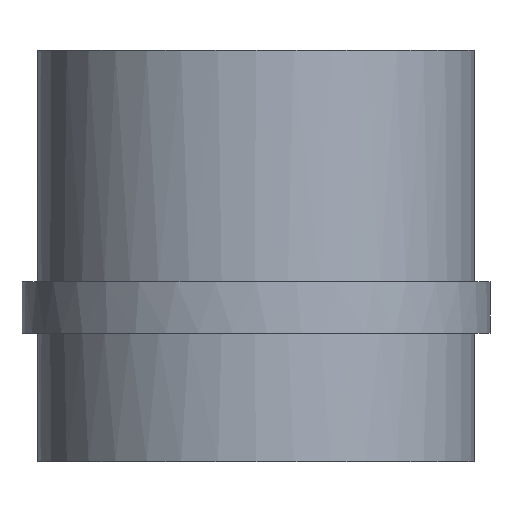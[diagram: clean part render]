
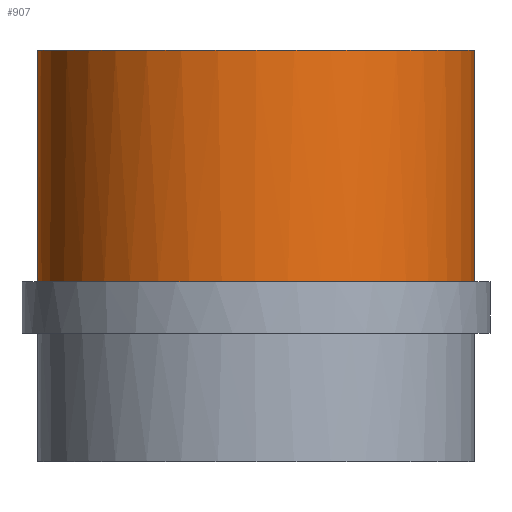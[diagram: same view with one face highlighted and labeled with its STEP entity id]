
A CAD part, front view. The second image highlights one B-rep face of the part: STEP entity #907.
In plain terms, the highlighted cylindrical face has radius 42.5 mm (diameter 85 mm), a partial arc.
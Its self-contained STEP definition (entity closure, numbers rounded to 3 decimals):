
#775=CARTESIAN_POINT('Vertex',(42.5,0.,10.)) ;
#777=CARTESIAN_POINT('Vertex',(-42.5,0.,10.)) ;
#781=CARTESIAN_POINT('Control Point',(42.5,0.,10.)) ;
#782=CARTESIAN_POINT('Control Point',(42.5,-4.152,10.)) ;
#783=CARTESIAN_POINT('Control Point',(41.993,-8.304,10.)) ;
#784=CARTESIAN_POINT('Control Point',(40.979,-12.373,10.)) ;
#785=CARTESIAN_POINT('Control Point',(37.978,-20.182,10.)) ;
#786=CARTESIAN_POINT('Control Point',(33.186,-27.038,10.)) ;
#787=CARTESIAN_POINT('Control Point',(30.381,-30.156,10.)) ;
#788=CARTESIAN_POINT('Control Point',(24.066,-35.643,10.)) ;
#789=CARTESIAN_POINT('Control Point',(16.617,-39.449,10.)) ;
#790=CARTESIAN_POINT('Control Point',(12.677,-40.886,10.)) ;
#791=CARTESIAN_POINT('Control Point',(4.526,-42.768,10.)) ;
#792=CARTESIAN_POINT('Control Point',(-3.838,-42.634,10.)) ;
#793=CARTESIAN_POINT('Control Point',(-7.992,-42.053,10.)) ;
#794=CARTESIAN_POINT('Control Point',(-16.073,-39.891,10.)) ;
#795=CARTESIAN_POINT('Control Point',(-23.396,-35.847,10.)) ;
#796=CARTESIAN_POINT('Control Point',(-26.791,-33.385,10.)) ;
#797=CARTESIAN_POINT('Control Point',(-32.912,-27.683,10.)) ;
#798=CARTESIAN_POINT('Control Point',(-37.481,-20.676,10.)) ;
#799=CARTESIAN_POINT('Control Point',(-39.325,-16.909,10.)) ;
#800=CARTESIAN_POINT('Control Point',(-41.279,-11.248,10.)) ;
#801=CARTESIAN_POINT('Control Point',(-42.217,-5.37,10.)) ;
#802=CARTESIAN_POINT('Control Point',(-42.406,-3.585,10.)) ;
#803=CARTESIAN_POINT('Control Point',(-42.5,-1.792,10.)) ;
#804=CARTESIAN_POINT('Control Point',(-42.5,0.,10.)) ;
#865=CARTESIAN_POINT('Line Origine',(-42.5,0.,-29.)) ;
#869=CARTESIAN_POINT('Vertex',(-42.5,0.,55.)) ;
#876=CARTESIAN_POINT('Vertex',(42.5,0.,55.)) ;
#879=CARTESIAN_POINT('Line Origine',(42.5,0.,-29.)) ;
#891=CARTESIAN_POINT('Axis2P3D Location',(0.,0.,-29.)) ;
#896=CARTESIAN_POINT('Axis2P3D Location',(0.,0.,55.)) ;
#866=DIRECTION('Vector Direction',(0.,0.,1.)) ;
#880=DIRECTION('Vector Direction',(0.,0.,1.)) ;
#892=DIRECTION('Axis2P3D Direction',(0.,0.,1.)) ;
#893=DIRECTION('Axis2P3D XDirection',(-1.,0.,0.)) ;
#897=DIRECTION('Axis2P3D Direction',(0.,0.,1.)) ;
#894=AXIS2_PLACEMENT_3D('Cylinder Axis2P3D',#891,#892,#893) ;
#898=AXIS2_PLACEMENT_3D('Circle Axis2P3D',#896,#897,$) ;
#902=ORIENTED_EDGE('',*,*,#900,.T.) ;
#903=ORIENTED_EDGE('',*,*,#871,.T.) ;
#904=ORIENTED_EDGE('',*,*,#805,.F.) ;
#905=ORIENTED_EDGE('',*,*,#883,.F.) ;
#867=VECTOR('Line Direction',#866,1.) ;
#881=VECTOR('Line Direction',#880,1.) ;
#907=ADVANCED_FACE('MANIFOLD_SOLID_BREP #2840',(#906),#895,.T.) ;
#780=B_SPLINE_CURVE_WITH_KNOTS('',5,(#781,#782,#783,#784,#785,#786,#787,#788,#789,#790,#791,#792,#793,#794,#795,#796,#797,#798,#799,#800,#801,#802,#803,#804),.UNSPECIFIED.,.F.,.U.,(6,3,3,3,3,3,3,6),(0.,29.358,58.716,88.073,117.431,146.789,176.147,188.821),.UNSPECIFIED.) ;
#899=CIRCLE('generated circle',#898,42.5) ;
#895=CYLINDRICAL_SURFACE('generated cylinder',#894,42.5) ;
#805=EDGE_CURVE('',#776,#778,#780,.T.) ;
#871=EDGE_CURVE('',#870,#778,#868,.F.) ;
#883=EDGE_CURVE('',#877,#776,#882,.F.) ;
#900=EDGE_CURVE('',#877,#870,#899,.F.) ;
#901=EDGE_LOOP('',(#902,#903,#904,#905)) ;
#906=FACE_OUTER_BOUND('',#901,.T.) ;
#868=LINE('Line',#865,#867) ;
#882=LINE('Line',#879,#881) ;
#776=VERTEX_POINT('',#775) ;
#778=VERTEX_POINT('',#777) ;
#870=VERTEX_POINT('',#869) ;
#877=VERTEX_POINT('',#876) ;
